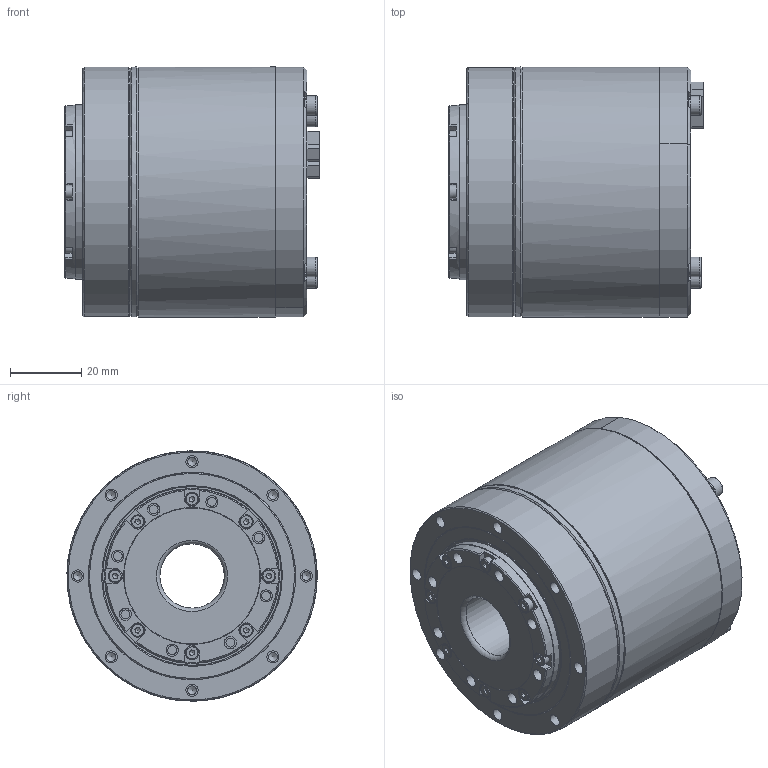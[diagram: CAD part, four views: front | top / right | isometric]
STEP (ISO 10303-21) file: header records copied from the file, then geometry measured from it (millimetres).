
FILE_DESCRIPTION (( 'STEP AP203' ), '1' );
FILE_NAME ('eRob70F｡ﾁ｡ﾁI-B-XX-18EX_V3_MC2A.AX.XX.STEP', '2025-04-03T02:38:54', ( 'Windows User' ), ( 'P R C' ), 'SwSTEP 2.0', 'SolidWorks 2021', '' );
FILE_SCHEMA (( 'CONFIG_CONTROL_DESIGN' ));
Length unit declared in the file: millimetre
Products named in the file (1): eRob70F××I-B-XX-18EX_V3_MC2A.AX.XX
Bounding box: 71.1 x 69.96 x 70 mm (x, y, z)
Volume: 227552.2 mm3; surface area: 34444.8 mm2
Topology: 1 solids, 1 shells, 1933 faces, 5258 edges, 3451 vertices
Faces by surface type: plane 1482, bspline 212, cylinder 169, cone 51, torus 19
Full cylindrical faces by diameter (mm): 1.5 x4, 1.55 x3, 1.6 x1, 2.5 x20, 3 x4, 3.4 x16, 3.8 x8, 5.5 x4, 18 x1, 48.6 x1, 49 x1, 50 x1, 58 x1, 70 x3
Entity records: 69819 total; most frequent: CARTESIAN_POINT 22843, ORIENTED_EDGE 10128, DIRECTION 8536, EDGE_CURVE 5064, LINE 4116, VECTOR 4116, VERTEX_POINT 3381, EDGE_LOOP 2267
